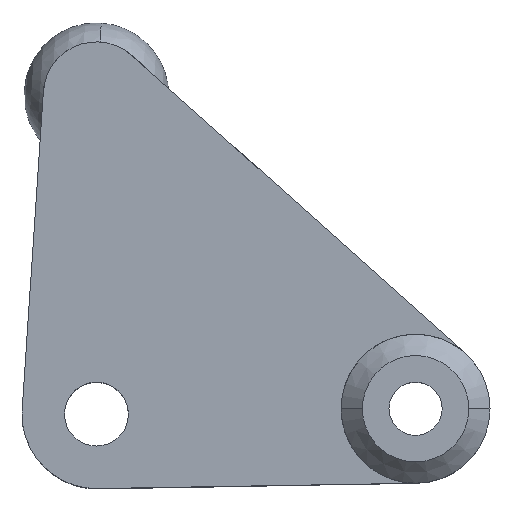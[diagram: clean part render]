
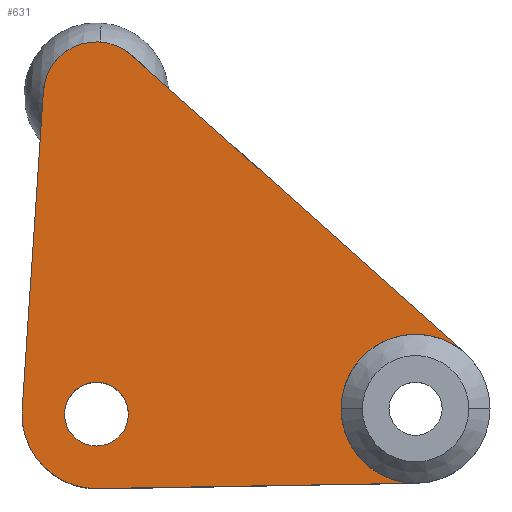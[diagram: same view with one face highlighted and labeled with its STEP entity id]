
A CAD part, top view. The second image highlights one B-rep face of the part: STEP entity #631.
In plain terms, the highlighted planar face has unit normal (0, 0, 1).
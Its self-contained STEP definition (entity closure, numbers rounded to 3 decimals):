
#6 = ORIENTED_EDGE ( 'NONE', *, *, #927, .T. ) ;
#28 = ORIENTED_EDGE ( 'NONE', *, *, #639, .T. ) ;
#41 = EDGE_CURVE ( 'NONE', #736, #1065, #971, .T. ) ;
#48 = DIRECTION ( 'NONE',  ( 0., 0., 1. ) ) ;
#76 = CARTESIAN_POINT ( 'NONE',  ( -2.494, 15.167, 10. ) ) ;
#99 = EDGE_CURVE ( 'NONE', #243, #889, #774, .T. ) ;
#104 = EDGE_LOOP ( 'NONE', ( #28, #6 ) ) ;
#119 = CIRCLE ( 'NONE', #1234, 3.5 ) ;
#137 = CARTESIAN_POINT ( 'NONE',  ( 17.333, 2.859, 10. ) ) ;
#139 = EDGE_CURVE ( 'NONE', #1065, #283, #119, .T. ) ;
#187 = CARTESIAN_POINT ( 'NONE',  ( 0., 15., 10. ) ) ;
#217 = FACE_BOUND ( 'NONE', #104, .T. ) ;
#223 = EDGE_LOOP ( 'NONE', ( #288, #1183, #920, #347, #692, #1011, #506, #1075 ) ) ;
#231 = AXIS2_PLACEMENT_3D ( 'NONE', #748, #661, #1288 ) ;
#233 = CARTESIAN_POINT ( 'NONE',  ( 15., 0.25, 10. ) ) ;
#243 = VERTEX_POINT ( 'NONE', #1199 ) ;
#261 = EDGE_CURVE ( 'NONE', #1149, #889, #1022, .T. ) ;
#278 = CARTESIAN_POINT ( 'NONE',  ( 0., 0., 10. ) ) ;
#283 = VERTEX_POINT ( 'NONE', #815 ) ;
#288 = ORIENTED_EDGE ( 'NONE', *, *, #985, .F. ) ;
#289 = DIRECTION ( 'NONE',  ( 0., 0., -1. ) ) ;
#322 = AXIS2_PLACEMENT_3D ( 'NONE', #278, #289, #582 ) ;
#343 = AXIS2_PLACEMENT_3D ( 'NONE', #233, #826, #422 ) ;
#347 = ORIENTED_EDGE ( 'NONE', *, *, #41, .T. ) ;
#364 = CARTESIAN_POINT ( 'NONE',  ( 1.666, 16.864, 10. ) ) ;
#400 = CARTESIAN_POINT ( 'NONE',  ( -2.494, 15.167, 10. ) ) ;
#401 = CARTESIAN_POINT ( 'NONE',  ( 0., 0., 10. ) ) ;
#414 = AXIS2_PLACEMENT_3D ( 'NONE', #856, #946, #438 ) ;
#419 = DIRECTION ( 'NONE',  ( 1., 0., 0. ) ) ;
#422 = DIRECTION ( 'NONE',  ( 1., 0., 0. ) ) ;
#433 = VECTOR ( 'NONE', #653, 1000. ) ;
#438 = DIRECTION ( 'NONE',  ( -1., 0., 0. ) ) ;
#455 = CARTESIAN_POINT ( 'NONE',  ( 1.666, 16.864, 10. ) ) ;
#506 = ORIENTED_EDGE ( 'NONE', *, *, #99, .T. ) ;
#552 = DIRECTION ( 'NONE',  ( 1., 0., 0. ) ) ;
#573 = VECTOR ( 'NONE', #1073, 1000. ) ;
#582 = DIRECTION ( 'NONE',  ( -1., 0., 0. ) ) ;
#583 = CARTESIAN_POINT ( 'NONE',  ( 0.058, -3.5, 10. ) ) ;
#592 = EDGE_CURVE ( 'NONE', #974, #1164, #1005, .T. ) ;
#603 = DIRECTION ( 'NONE',  ( 0., 0., 1. ) ) ;
#606 = FACE_OUTER_BOUND ( 'NONE', #223, .T. ) ;
#614 = CARTESIAN_POINT ( 'NONE',  ( 0., 0., 10. ) ) ;
#626 = DIRECTION ( 'NONE',  ( 0., 0., 1. ) ) ;
#631 = ADVANCED_FACE ( 'NONE', ( #606, #217 ), #681, .T. ) ;
#639 = EDGE_CURVE ( 'NONE', #1198, #833, #1270, .T. ) ;
#649 = CARTESIAN_POINT ( 'NONE',  ( 15., 0.25, 10. ) ) ;
#651 = CARTESIAN_POINT ( 'NONE',  ( -3.492, 0.233, 10. ) ) ;
#653 = DIRECTION ( 'NONE',  ( -0.746, 0.666, 0. ) ) ;
#661 = DIRECTION ( 'NONE',  ( 0., 0., 1. ) ) ;
#672 = CARTESIAN_POINT ( 'NONE',  ( 11.5, 0.25, 10. ) ) ;
#681 = PLANE ( 'NONE',  #1252 ) ;
#692 = ORIENTED_EDGE ( 'NONE', *, *, #139, .T. ) ;
#728 = CARTESIAN_POINT ( 'NONE',  ( 15.058, -3.25, 10. ) ) ;
#736 = VERTEX_POINT ( 'NONE', #400 ) ;
#743 = AXIS2_PLACEMENT_3D ( 'NONE', #649, #48, #552 ) ;
#748 = CARTESIAN_POINT ( 'NONE',  ( 0., 15., 10. ) ) ;
#774 = LINE ( 'NONE', #583, #1289 ) ;
#790 = CARTESIAN_POINT ( 'NONE',  ( -1.5, 0., 10. ) ) ;
#805 = CIRCLE ( 'NONE', #909, 3.5 ) ;
#815 = CARTESIAN_POINT ( 'NONE',  ( -3.5, 0., 10. ) ) ;
#826 = DIRECTION ( 'NONE',  ( 0., 0., 1. ) ) ;
#833 = VERTEX_POINT ( 'NONE', #835 ) ;
#835 = CARTESIAN_POINT ( 'NONE',  ( 1.5, 0., 10. ) ) ;
#856 = CARTESIAN_POINT ( 'NONE',  ( 0., 0., 10. ) ) ;
#875 = CIRCLE ( 'NONE', #743, 3.5 ) ;
#889 = VERTEX_POINT ( 'NONE', #728 ) ;
#894 = DIRECTION ( 'NONE',  ( 1., 0.017, 0. ) ) ;
#909 = AXIS2_PLACEMENT_3D ( 'NONE', #614, #626, #419 ) ;
#920 = ORIENTED_EDGE ( 'NONE', *, *, #1133, .T. ) ;
#927 = EDGE_CURVE ( 'NONE', #833, #1198, #1302, .T. ) ;
#946 = DIRECTION ( 'NONE',  ( 0., 0., -1. ) ) ;
#971 = LINE ( 'NONE', #76, #573 ) ;
#974 = VERTEX_POINT ( 'NONE', #137 ) ;
#984 = DIRECTION ( 'NONE',  ( 1., 0., 0. ) ) ;
#985 = EDGE_CURVE ( 'NONE', #974, #1149, #875, .T. ) ;
#1005 = LINE ( 'NONE', #455, #433 ) ;
#1011 = ORIENTED_EDGE ( 'NONE', *, *, #1300, .T. ) ;
#1022 = CIRCLE ( 'NONE', #343, 3.5 ) ;
#1065 = VERTEX_POINT ( 'NONE', #651 ) ;
#1073 = DIRECTION ( 'NONE',  ( -0.067, -0.998, 0. ) ) ;
#1075 = ORIENTED_EDGE ( 'NONE', *, *, #261, .F. ) ;
#1133 = EDGE_CURVE ( 'NONE', #1164, #736, #1153, .T. ) ;
#1149 = VERTEX_POINT ( 'NONE', #672 ) ;
#1153 = CIRCLE ( 'NONE', #231, 2.5 ) ;
#1164 = VERTEX_POINT ( 'NONE', #364 ) ;
#1183 = ORIENTED_EDGE ( 'NONE', *, *, #592, .T. ) ;
#1191 = DIRECTION ( 'NONE',  ( 0., 0., 1. ) ) ;
#1198 = VERTEX_POINT ( 'NONE', #790 ) ;
#1199 = CARTESIAN_POINT ( 'NONE',  ( 0.058, -3.5, 10. ) ) ;
#1234 = AXIS2_PLACEMENT_3D ( 'NONE', #401, #603, #1305 ) ;
#1252 = AXIS2_PLACEMENT_3D ( 'NONE', #187, #1191, #984 ) ;
#1270 = CIRCLE ( 'NONE', #322, 1.5 ) ;
#1288 = DIRECTION ( 'NONE',  ( 1., 0., 0. ) ) ;
#1289 = VECTOR ( 'NONE', #894, 1000. ) ;
#1300 = EDGE_CURVE ( 'NONE', #283, #243, #805, .T. ) ;
#1302 = CIRCLE ( 'NONE', #414, 1.5 ) ;
#1305 = DIRECTION ( 'NONE',  ( 1., 0., 0. ) ) ;
